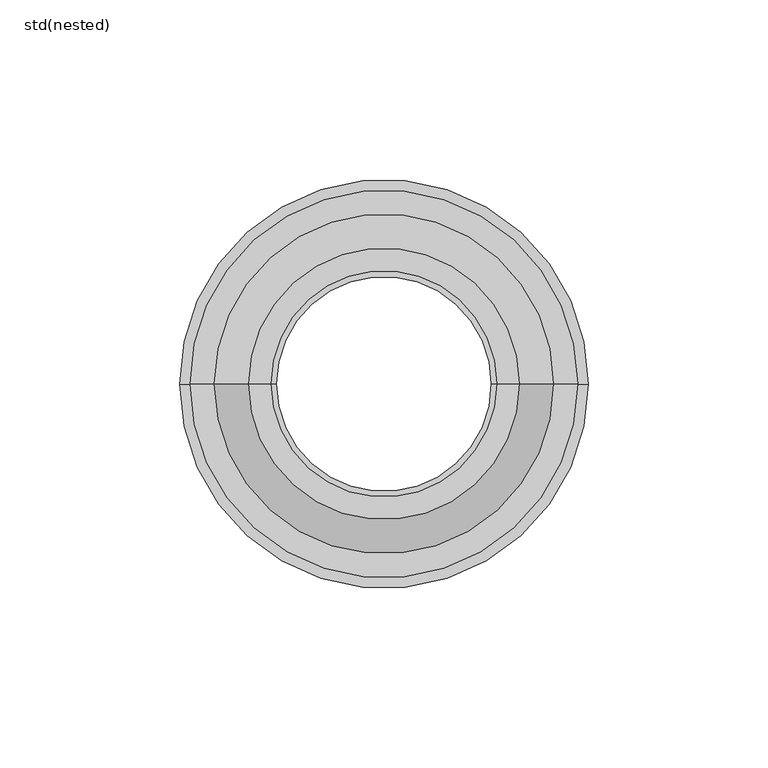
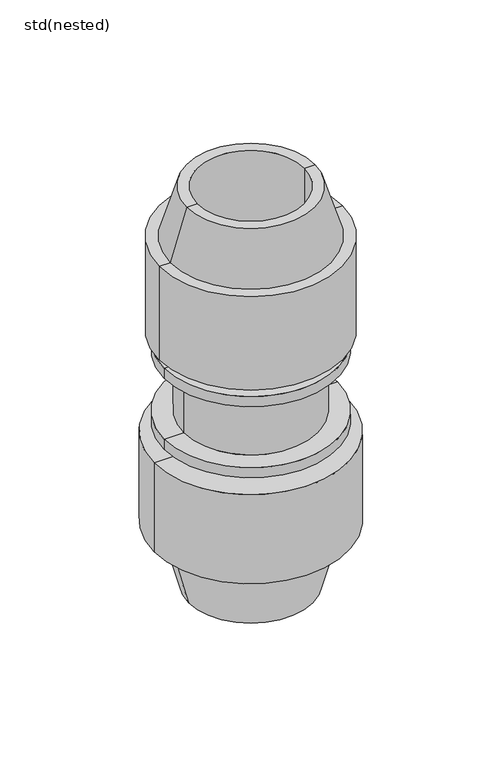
"""IFC4 building model written with IfcOpenShell, lengths in millimetres: pipe fitting geometry, ZZZ_do not use_PIF_PP_WPB_compression fitting_ACO : std(nested)."""

from ifc_helpers import new_model, si_unit, frame, origin, origin_with_axes, place, context, project, spatial, polyline, circle_curve, source, transform, mapped, element, save
from ifc_brep_helpers import plane_surface, cylinder_surface, revolved_surface, advanced_brep


def std_nested_3c33b1e7(model_context):
    return source(origin(), model_context, "Body", "AdvancedBrep", [
        advanced_brep(
        [(-53.9201527, 0.0, 214.9000895), (53.9201527, 0.0, 214.9000895), (53.9201527, 0.0, 157.0), (-53.9201527, 0.0, 157.0), (-47.3081968, 0.0, 214.9000895), (47.3081968, 0.0, 214.9000895), (-37.8, 0.0, 246.0), (37.8, 0.0, 246.0), (-31.5, 0.0, 246.0), (31.5, 0.0, 246.0), (-31.5, 0.0, 157.0), (31.5, 0.0, 157.0)],
        [
            (0, 1, circle_curve(frame((0.0, 0.0, 214.9000895), z_axis=(0.0, 0.0, -1.0), x_axis=(1.0, 0.0, 0.0)), 53.9201527)),
            (1, 2),
            (2, 3, circle_curve(frame((0.0, 0.0, 157.0), z_axis=(0.0, 0.0, 1.0), x_axis=(1.0, 0.0, 0.0)), 53.9201527)),
            (3, 0),
            (1, 0, circle_curve(frame((0.0, 0.0, 214.9000895), z_axis=(0.0, 0.0, -1.0), x_axis=(1.0, 0.0, 0.0)), 53.9201527)),
            (3, 2, circle_curve(frame((0.0, 0.0, 157.0), z_axis=(0.0, 0.0, 1.0), x_axis=(1.0, 0.0, 0.0)), 53.9201527)),
            (4, 5, circle_curve(frame((0.0, 0.0, 214.9000895), z_axis=(0.0, 0.0, -1.0), x_axis=(1.0, 0.0, 0.0)), 47.3081968)),
            (5, 1),
            (0, 4),
            (5, 4, circle_curve(frame((0.0, 0.0, 214.9000895), z_axis=(0.0, 0.0, -1.0), x_axis=(1.0, 0.0, 0.0)), 47.3081968)),
            (6, 7, circle_curve(frame((0.0, 0.0, 246.0), z_axis=(0.0, 0.0, -1.0), x_axis=(1.0, 0.0, 0.0)), 37.8)),
            (7, 5),
            (4, 6),
            (7, 6, circle_curve(frame((0.0, 0.0, 246.0), z_axis=(0.0, 0.0, -1.0), x_axis=(1.0, 0.0, 0.0)), 37.8)),
            (8, 9, circle_curve(frame((0.0, 0.0, 246.0), z_axis=(0.0, 0.0, -1.0), x_axis=(1.0, 0.0, 0.0)), 31.5)),
            (9, 7),
            (6, 8),
            (9, 8, circle_curve(frame((0.0, 0.0, 246.0), z_axis=(0.0, 0.0, -1.0), x_axis=(1.0, 0.0, 0.0)), 31.5)),
            (10, 11, circle_curve(frame((0.0, 0.0, 157.0), z_axis=(0.0, 0.0, -1.0), x_axis=(1.0, 0.0, 0.0)), 31.5)),
            (11, 9),
            (8, 10),
            (11, 10, circle_curve(frame((0.0, 0.0, 157.0), z_axis=(0.0, 0.0, -1.0), x_axis=(1.0, 0.0, 0.0)), 31.5)),
            (2, 11),
            (10, 3),
        ],
        [
            cylinder_surface(frame((0.0, 0.0, 260.8804854), z_axis=(0.0, 0.0, 1.0), x_axis=(1.0, 0.0, 0.0)), 53.9201527),
            plane_surface(frame((0.0, 0.0, 214.9000895), z_axis=(0.0, 0.0, 1.0), x_axis=(1.0, 0.0, 0.0))),
            revolved_surface(polyline([(47.3081968, 0.0, 214.9000895), (37.8, 0.0, 246.0)]), (0.0, 0.0, 260.8804854), (0.0, 0.0, 1.0)),
            plane_surface(frame((0.0, 0.0, 246.0), z_axis=(0.0, 0.0, 1.0), x_axis=(1.0, 0.0, 0.0))),
            revolved_surface(polyline([(31.5, 0.0, 246.0), (31.5, 0.0, 157.0)]), (0.0, 0.0, 260.8804854), (0.0, 0.0, 1.0)),
            plane_surface(frame((0.0, 0.0, 157.0), z_axis=(0.0, 0.0, -1.0), x_axis=(1.0, 0.0, 0.0))),
        ],
        [
            (0, [[1, 2, 3, 4]]),
            (0, [[5, -4, 6, -2]]),
            (1, [[7, 8, -1, 9]]),
            (1, [[10, -9, -5, -8]]),
            (2, [[11, 12, -7, 13]]),
            (2, [[14, -13, -10, -12]]),
            (3, [[15, 16, -11, 17]]),
            (3, [[18, -17, -14, -16]]),
            (4, [[19, 20, -15, 21]]),
            (4, [[22, -21, -18, -20]]),
            (5, [[-3, 23, -19, 24]]),
            (5, [[-6, -24, -22, -23]]),
        ],
    ),
        advanced_brep(
        [(-37.8, 0.0, 94.0), (37.8, 0.0, 94.0), (29.925, 0.0, 94.0), (-29.925, 0.0, 94.0), (-37.8, 0.0, 100.3), (37.8, 0.0, 100.3), (-50.85, 0.0, 100.3), (50.85, 0.0, 100.3), (-50.85, 0.0, 106.6), (50.85, 0.0, 106.6), (-39.55, 0.0, 106.6), (39.55, 0.0, 106.6), (-39.55, 0.0, 144.4), (39.55, 0.0, 144.4), (-50.85, 0.0, 144.4), (50.85, 0.0, 144.4), (-50.85, 0.0, 150.7), (50.85, 0.0, 150.7), (-37.8, 0.0, 150.7), (37.8, 0.0, 150.7), (-37.8, 0.0, 157.0), (37.8, 0.0, 157.0), (-29.925, 0.0, 157.0), (29.925, 0.0, 157.0)],
        [
            (0, 1, circle_curve(frame((0.0, 0.0, 94.0), z_axis=(0.0, 0.0, -1.0), x_axis=(1.0, 0.0, 0.0)), 37.8)),
            (1, 2),
            (2, 3, circle_curve(frame((0.0, 0.0, 94.0), z_axis=(0.0, 0.0, 1.0), x_axis=(1.0, 0.0, 0.0)), 29.925)),
            (3, 0),
            (1, 0, circle_curve(frame((0.0, 0.0, 94.0), z_axis=(0.0, 0.0, -1.0), x_axis=(1.0, 0.0, 0.0)), 37.8)),
            (3, 2, circle_curve(frame((0.0, 0.0, 94.0), z_axis=(0.0, 0.0, 1.0), x_axis=(1.0, 0.0, 0.0)), 29.925)),
            (4, 5, circle_curve(frame((0.0, 0.0, 100.3), z_axis=(0.0, 0.0, -1.0), x_axis=(1.0, 0.0, 0.0)), 37.8)),
            (5, 1),
            (0, 4),
            (5, 4, circle_curve(frame((0.0, 0.0, 100.3), z_axis=(0.0, 0.0, -1.0), x_axis=(1.0, 0.0, 0.0)), 37.8)),
            (6, 7, circle_curve(frame((0.0, 0.0, 100.3), z_axis=(0.0, 0.0, -1.0), x_axis=(1.0, 0.0, 0.0)), 50.85)),
            (7, 5),
            (4, 6),
            (7, 6, circle_curve(frame((0.0, 0.0, 100.3), z_axis=(0.0, 0.0, -1.0), x_axis=(1.0, 0.0, 0.0)), 50.85)),
            (8, 9, circle_curve(frame((0.0, 0.0, 106.6), z_axis=(0.0, 0.0, -1.0), x_axis=(1.0, 0.0, 0.0)), 50.85)),
            (9, 7),
            (6, 8),
            (9, 8, circle_curve(frame((0.0, 0.0, 106.6), z_axis=(0.0, 0.0, -1.0), x_axis=(1.0, 0.0, 0.0)), 50.85)),
            (10, 11, circle_curve(frame((0.0, 0.0, 106.6), z_axis=(0.0, 0.0, -1.0), x_axis=(1.0, 0.0, 0.0)), 39.55)),
            (11, 9),
            (8, 10),
            (11, 10, circle_curve(frame((0.0, 0.0, 106.6), z_axis=(0.0, 0.0, -1.0), x_axis=(1.0, 0.0, 0.0)), 39.55)),
            (12, 13, circle_curve(frame((0.0, 0.0, 144.4), z_axis=(0.0, 0.0, -1.0), x_axis=(1.0, 0.0, 0.0)), 39.55)),
            (13, 11),
            (10, 12),
            (13, 12, circle_curve(frame((0.0, 0.0, 144.4), z_axis=(0.0, 0.0, -1.0), x_axis=(1.0, 0.0, 0.0)), 39.55)),
            (14, 15, circle_curve(frame((0.0, 0.0, 144.4), z_axis=(0.0, 0.0, -1.0), x_axis=(1.0, 0.0, 0.0)), 50.85)),
            (15, 13),
            (12, 14),
            (15, 14, circle_curve(frame((0.0, 0.0, 144.4), z_axis=(0.0, 0.0, -1.0), x_axis=(1.0, 0.0, 0.0)), 50.85)),
            (16, 17, circle_curve(frame((0.0, 0.0, 150.7), z_axis=(0.0, 0.0, -1.0), x_axis=(1.0, 0.0, 0.0)), 50.85)),
            (17, 15),
            (14, 16),
            (17, 16, circle_curve(frame((0.0, 0.0, 150.7), z_axis=(0.0, 0.0, -1.0), x_axis=(1.0, 0.0, 0.0)), 50.85)),
            (18, 19, circle_curve(frame((0.0, 0.0, 150.7), z_axis=(0.0, 0.0, -1.0), x_axis=(1.0, 0.0, 0.0)), 37.8)),
            (19, 17),
            (16, 18),
            (19, 18, circle_curve(frame((0.0, 0.0, 150.7), z_axis=(0.0, 0.0, -1.0), x_axis=(1.0, 0.0, 0.0)), 37.8)),
            (20, 21, circle_curve(frame((0.0, 0.0, 157.0), z_axis=(0.0, 0.0, -1.0), x_axis=(1.0, 0.0, 0.0)), 37.8)),
            (21, 19),
            (18, 20),
            (21, 20, circle_curve(frame((0.0, 0.0, 157.0), z_axis=(0.0, 0.0, -1.0), x_axis=(1.0, 0.0, 0.0)), 37.8)),
            (22, 23, circle_curve(frame((0.0, 0.0, 157.0), z_axis=(0.0, 0.0, -1.0), x_axis=(1.0, 0.0, 0.0)), 29.925)),
            (23, 21),
            (20, 22),
            (23, 22, circle_curve(frame((0.0, 0.0, 157.0), z_axis=(0.0, 0.0, -1.0), x_axis=(1.0, 0.0, 0.0)), 29.925)),
            (2, 23),
            (22, 3),
        ],
        [
            plane_surface(frame((0.0, 0.0, 94.0), z_axis=(0.0, 0.0, -1.0), x_axis=(1.0, 0.0, 0.0))),
            cylinder_surface(frame((0.0, 0.0, 260.0), z_axis=(0.0, 0.0, 1.0), x_axis=(1.0, 0.0, 0.0)), 37.8),
            plane_surface(frame((0.0, 0.0, 100.3), z_axis=(0.0, 0.0, -1.0), x_axis=(1.0, 0.0, 0.0))),
            cylinder_surface(frame((0.0, 0.0, 260.0), z_axis=(0.0, 0.0, 1.0), x_axis=(1.0, 0.0, 0.0)), 50.85),
            plane_surface(frame((0.0, 0.0, 106.6), z_axis=(0.0, 0.0, 1.0), x_axis=(1.0, 0.0, 0.0))),
            cylinder_surface(frame((0.0, 0.0, 260.0), z_axis=(0.0, 0.0, 1.0), x_axis=(1.0, 0.0, 0.0)), 39.55),
            plane_surface(frame((0.0, 0.0, 144.4), z_axis=(0.0, 0.0, -1.0), x_axis=(1.0, 0.0, 0.0))),
            plane_surface(frame((0.0, 0.0, 150.7), z_axis=(0.0, 0.0, 1.0), x_axis=(1.0, 0.0, 0.0))),
            plane_surface(frame((0.0, 0.0, 157.0), z_axis=(0.0, 0.0, 1.0), x_axis=(1.0, 0.0, 0.0))),
            revolved_surface(polyline([(29.925, 0.0, 157.0), (29.925, 0.0, 94.0)]), (0.0, 0.0, 260.0), (0.0, 0.0, 1.0)),
        ],
        [
            (0, [[1, 2, 3, 4]]),
            (0, [[5, -4, 6, -2]]),
            (1, [[7, 8, -1, 9]]),
            (1, [[10, -9, -5, -8]]),
            (2, [[11, 12, -7, 13]]),
            (2, [[14, -13, -10, -12]]),
            (3, [[15, 16, -11, 17]]),
            (3, [[18, -17, -14, -16]]),
            (4, [[19, 20, -15, 21]]),
            (4, [[22, -21, -18, -20]]),
            (5, [[23, 24, -19, 25]]),
            (5, [[26, -25, -22, -24]]),
            (6, [[27, 28, -23, 29]]),
            (6, [[30, -29, -26, -28]]),
            (3, [[31, 32, -27, 33]]),
            (3, [[34, -33, -30, -32]]),
            (7, [[35, 36, -31, 37]]),
            (7, [[38, -37, -34, -36]]),
            (1, [[39, 40, -35, 41]]),
            (1, [[42, -41, -38, -40]]),
            (8, [[43, 44, -39, 45]]),
            (8, [[46, -45, -42, -44]]),
            (9, [[-3, 47, -43, 48]]),
            (9, [[-6, -48, -46, -47]]),
        ],
    ),
        advanced_brep(
        [(-46.8586666, 0.0, 38.8074039), (46.8586666, 0.0, 38.8074039), (36.460254, 0.0, 0.0), (-36.460254, 0.0, 0.0), (-56.8586666, 0.0, 38.8074039), (56.8586666, 0.0, 38.8074039), (-56.8586666, 0.0, 94.0), (56.8586666, 0.0, 94.0), (-31.5, 0.0, 94.0), (31.5, 0.0, 94.0), (-31.5, 0.0, 0.0), (31.5, 0.0, 0.0)],
        [
            (0, 1, circle_curve(frame((0.0, 0.0, 38.8074039), z_axis=(0.0, 0.0, -1.0), x_axis=(1.0, 0.0, 0.0)), 46.8586666)),
            (1, 2),
            (2, 3, circle_curve(origin_with_axes(), 36.460254)),
            (3, 0),
            (1, 0, circle_curve(frame((0.0, 0.0, 38.8074039), z_axis=(0.0, 0.0, -1.0), x_axis=(1.0, 0.0, 0.0)), 46.8586666)),
            (3, 2, circle_curve(origin_with_axes(), 36.460254)),
            (4, 5, circle_curve(frame((0.0, 0.0, 38.8074039), z_axis=(0.0, 0.0, -1.0), x_axis=(1.0, 0.0, 0.0)), 56.8586666)),
            (5, 1),
            (0, 4),
            (5, 4, circle_curve(frame((0.0, 0.0, 38.8074039), z_axis=(0.0, 0.0, -1.0), x_axis=(1.0, 0.0, 0.0)), 56.8586666)),
            (6, 7, circle_curve(frame((0.0, 0.0, 94.0), z_axis=(0.0, 0.0, -1.0), x_axis=(1.0, 0.0, 0.0)), 56.8586666)),
            (7, 5),
            (4, 6),
            (7, 6, circle_curve(frame((0.0, 0.0, 94.0), z_axis=(0.0, 0.0, -1.0), x_axis=(1.0, 0.0, 0.0)), 56.8586666)),
            (8, 9, circle_curve(frame((0.0, 0.0, 94.0), z_axis=(0.0, 0.0, -1.0), x_axis=(1.0, 0.0, 0.0)), 31.5)),
            (9, 7),
            (6, 8),
            (9, 8, circle_curve(frame((0.0, 0.0, 94.0), z_axis=(0.0, 0.0, -1.0), x_axis=(1.0, 0.0, 0.0)), 31.5)),
            (10, 11, circle_curve(frame((0.0, 0.0, 0.0), z_axis=(0.0, 0.0, -1.0), x_axis=(1.0, 0.0, 0.0)), 31.5)),
            (11, 9),
            (8, 10),
            (11, 10, circle_curve(frame((0.0, 0.0, 0.0), z_axis=(0.0, 0.0, -1.0), x_axis=(1.0, 0.0, 0.0)), 31.5)),
            (2, 11),
            (10, 3),
        ],
        [
            revolved_surface(polyline([(36.460254, 0.0, 0.0), (46.8586666, 0.0, 38.8074039)]), (0.0, 0.0, 295.0), (0.0, 0.0, 1.0)),
            plane_surface(frame((0.0, 0.0, 38.8074039), z_axis=(0.0, 0.0, -1.0), x_axis=(1.0, 0.0, 0.0))),
            cylinder_surface(frame((0.0, 0.0, 295.0), z_axis=(0.0, 0.0, 1.0), x_axis=(1.0, 0.0, 0.0)), 56.8586666),
            plane_surface(frame((0.0, 0.0, 94.0), z_axis=(0.0, 0.0, 1.0), x_axis=(1.0, 0.0, 0.0))),
            revolved_surface(polyline([(31.5, 0.0, 94.0), (31.5, 0.0, 0.0)]), (0.0, 0.0, 295.0), (0.0, 0.0, 1.0)),
            plane_surface(frame((0.0, 0.0, 0.0), z_axis=(0.0, 0.0, -1.0), x_axis=(1.0, 0.0, 0.0))),
        ],
        [
            (0, [[1, 2, 3, 4]]),
            (0, [[5, -4, 6, -2]]),
            (1, [[7, 8, -1, 9]]),
            (1, [[10, -9, -5, -8]]),
            (2, [[11, 12, -7, 13]]),
            (2, [[14, -13, -10, -12]]),
            (3, [[15, 16, -11, 17]]),
            (3, [[18, -17, -14, -16]]),
            (4, [[19, 20, -15, 21]]),
            (4, [[22, -21, -18, -20]]),
            (5, [[-3, 23, -19, 24]]),
            (5, [[-6, -24, -22, -23]]),
        ],
    ),
    ])


if __name__ == "__main__":
    model = new_model("IFC4")
    model_context = context("Model", 3, world=origin())
    ifc_project = project(units=[si_unit("LENGTHUNIT", "METRE", prefix="MILLI")], contexts=[model_context])
    site = spatial("IfcSite", under=ifc_project)
    building = spatial("IfcBuilding", under=site)
    placement = place(None, origin())
    std_nested_shape = std_nested_3c33b1e7(model_context)
    element("IfcPipeFitting", 1, ObjectType="ZZZ_do not use_PIF_PP_WPB_compression fitting_ACO : std(nested)", at=placement, inside=building, context=model_context, shape_type="MappedRepresentation", body=[
        mapped(std_nested_shape, transform((0.0, 0.0, 0.0), x_axis=(1.0, 0.0, 0.0), y_axis=(0.0, 1.0, 0.0), z_axis=(0.0, 0.0, 1.0))),
    ])
    save(model, "model.ifc")
